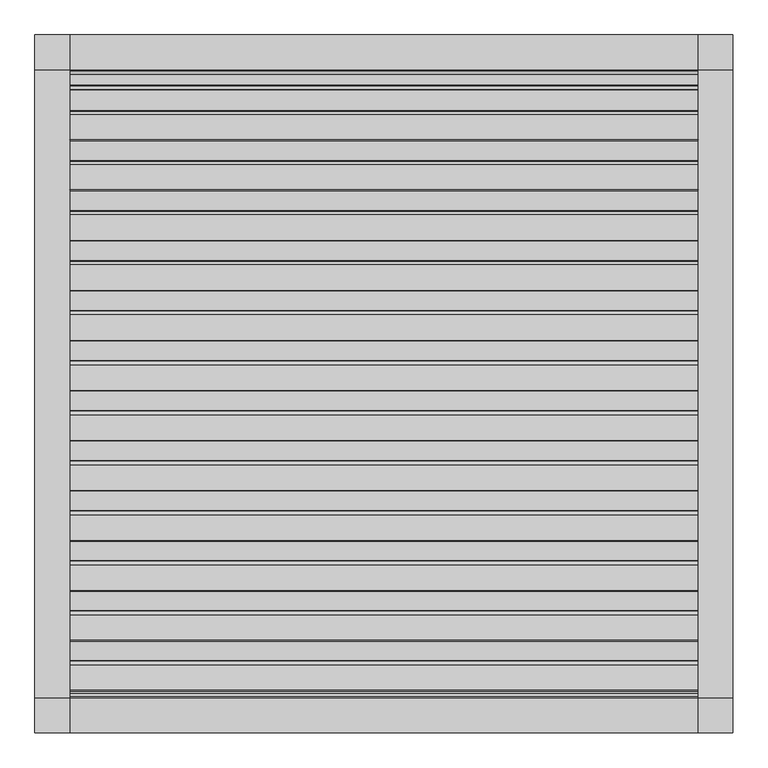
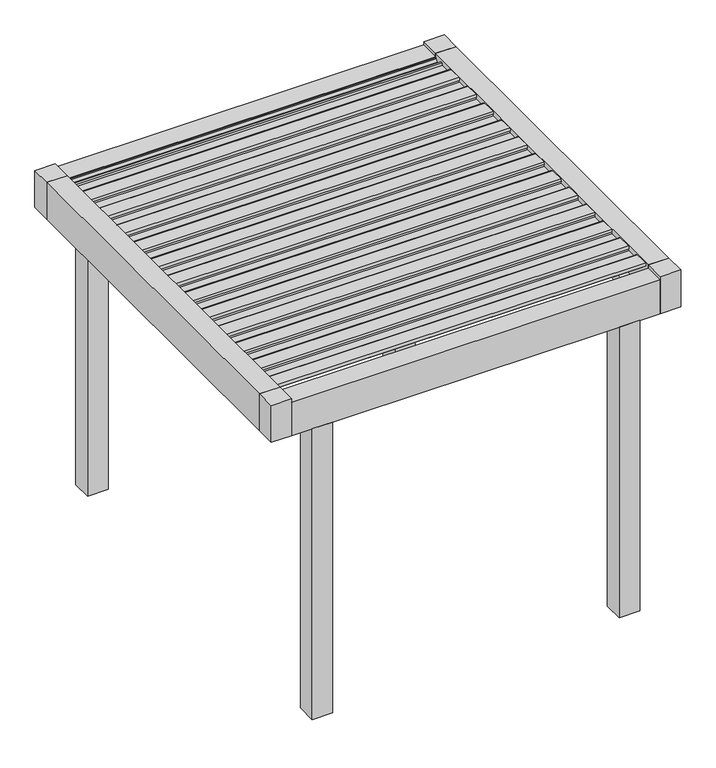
"""IFC4 building model written with IfcOpenShell, lengths in millimetres: proxy geometry, Renson_Amani_Patio_Cover : Renson_Amani_Patio_Cover."""

from ifc_helpers import new_model, si_unit, point, frame, frame_2d, origin, origin_with_axes, place, context, project, spatial, polyline, circle_curve, trimmed, segment, composite_curve, outline, extrude, source, transform, mapped, element, save


def generic_models_d4e516ff(model_context):
    return source(origin(), model_context, "Body", "SweptSolid", [
        extrude(outline(composite_curve([segment(polyline([(-1073.7289238, 2483.35), (-1076.1490335, 2511.01198), (-1104.984284, 2512.3970364), (-1101.5469529, 2531.8911096), (-991.549838, 2526.6075693)]), True, "CONTINUOUS"), segment(trimmed(circle_curve(frame_2d((-992.26951, 2511.6248435)), 15.0), [point((-991.549838, 2526.6075693))], [point((-977.4973937, 2514.2295662))], False, "CARTESIAN"), True, "CONTINUOUS"), segment(polyline([(-977.4973937, 2514.2295662), (-974.1067023, 2495.0), (-886.3709263, 2495.0), (-883.3594689, 2512.0788237), (-868.0824984, 2511.3450182), (-865.6332517, 2483.35), (-1073.7289238, 2483.35)]), True, "CONTINUOUS")], self_intersect=False)), frame((-1350.0, 0.0, 0.0), z_axis=(1.0, 0.0, 0.0), x_axis=(0.0, 1.0, 0.0)), (0.0, 0.0, 1.0), 2700.0),
        extrude(outline(composite_curve([segment(polyline([(-858.7132078, 2483.35), (-861.1333174, 2511.01198), (-889.9685679, 2512.3970364), (-886.5312368, 2531.8911096), (-776.534122, 2526.6075693)]), True, "CONTINUOUS"), segment(trimmed(circle_curve(frame_2d((-777.2537939, 2511.6248435)), 15.0), [point((-776.534122, 2526.6075693))], [point((-762.4816776, 2514.2295662))], False, "CARTESIAN"), True, "CONTINUOUS"), segment(polyline([(-762.4816776, 2514.2295662), (-759.0909863, 2495.0), (-671.3552102, 2495.0), (-668.3437528, 2512.0788237), (-653.0667824, 2511.3450182), (-650.6175356, 2483.35), (-858.7132078, 2483.35)]), True, "CONTINUOUS")], self_intersect=False)), frame((-1350.0, 0.0, 0.0), z_axis=(1.0, 0.0, 0.0), x_axis=(0.0, 1.0, 0.0)), (0.0, 0.0, 1.0), 2700.0),
        extrude(outline(composite_curve([segment(polyline([(-643.6974917, 2483.35), (-646.1176014, 2511.01198), (-674.9528519, 2512.3970364), (-671.5155208, 2531.8911096), (-561.5184059, 2526.6075693)]), True, "CONTINUOUS"), segment(trimmed(circle_curve(frame_2d((-562.2380779, 2511.6248435)), 15.0), [point((-561.5184059, 2526.6075693))], [point((-547.4659616, 2514.2295662))], False, "CARTESIAN"), True, "CONTINUOUS"), segment(polyline([(-547.4659616, 2514.2295662), (-544.0752702, 2495.0), (-456.3394942, 2495.0), (-453.3280368, 2512.0788237), (-438.0510663, 2511.3450182), (-435.6018196, 2483.35), (-643.6974917, 2483.35)]), True, "CONTINUOUS")], self_intersect=False)), frame((-1350.0, 0.0, 0.0), z_axis=(1.0, 0.0, 0.0), x_axis=(0.0, 1.0, 0.0)), (0.0, 0.0, 1.0), 2700.0),
        extrude(outline(composite_curve([segment(polyline([(-428.6817757, 2483.35), (-431.1018854, 2511.01198), (-459.9371358, 2512.3970364), (-456.4998047, 2531.8911096), (-346.5026899, 2526.6075693)]), True, "CONTINUOUS"), segment(trimmed(circle_curve(frame_2d((-347.2223618, 2511.6248435)), 15.0), [point((-346.5026899, 2526.6075693))], [point((-332.4502455, 2514.2295662))], False, "CARTESIAN"), True, "CONTINUOUS"), segment(polyline([(-332.4502455, 2514.2295662), (-329.0595542, 2495.0), (-241.3237782, 2495.0), (-238.3123207, 2512.0788237), (-223.0353503, 2511.3450182), (-220.5861035, 2483.35), (-428.6817757, 2483.35)]), True, "CONTINUOUS")], self_intersect=False)), frame((-1350.0, 0.0, 0.0), z_axis=(1.0, 0.0, 0.0), x_axis=(0.0, 1.0, 0.0)), (0.0, 0.0, 1.0), 2700.0),
        extrude(outline(composite_curve([segment(polyline([(-213.6660597, 2483.35), (-216.0861693, 2511.01198), (-244.9214198, 2512.3970364), (-241.4840887, 2531.8911096), (-131.4869738, 2526.6075693)]), True, "CONTINUOUS"), segment(trimmed(circle_curve(frame_2d((-132.2066458, 2511.6248435)), 15.0), [point((-131.4869738, 2526.6075693))], [point((-117.4345295, 2514.2295662))], False, "CARTESIAN"), True, "CONTINUOUS"), segment(polyline([(-117.4345295, 2514.2295662), (-114.0438381, 2495.0), (-26.3080621, 2495.0), (-23.2966047, 2512.0788237), (-8.0196342, 2511.3450182), (-5.5703875, 2483.35), (-213.6660597, 2483.35)]), True, "CONTINUOUS")], self_intersect=False)), frame((-1350.0, 0.0, 0.0), z_axis=(1.0, 0.0, 0.0), x_axis=(0.0, 1.0, 0.0)), (0.0, 0.0, 1.0), 2700.0),
        extrude(outline(composite_curve([segment(polyline([(1.3496564, 2483.35), (-1.0704533, 2511.01198), (-29.9057037, 2512.3970364), (-26.4683726, 2531.8911096), (83.5287422, 2526.6075693)]), True, "CONTINUOUS"), segment(trimmed(circle_curve(frame_2d((82.8090703, 2511.6248435)), 15.0), [point((83.5287422, 2526.6075693))], [point((97.5811866, 2514.2295662))], False, "CARTESIAN"), True, "CONTINUOUS"), segment(polyline([(97.5811866, 2514.2295662), (100.9718779, 2495.0), (188.7076539, 2495.0), (191.7191114, 2512.0788237), (206.9960818, 2511.3450182), (209.4453286, 2483.35), (1.3496564, 2483.35)]), True, "CONTINUOUS")], self_intersect=False)), frame((-1350.0, 0.0, 0.0), z_axis=(1.0, 0.0, 0.0), x_axis=(0.0, 1.0, 0.0)), (0.0, 0.0, 1.0), 2700.0),
        extrude(outline(composite_curve([segment(polyline([(216.3653724, 2483.35), (213.9452628, 2511.01198), (185.1100123, 2512.3970364), (188.5473434, 2531.8911096), (298.5444582, 2526.6075693)]), True, "CONTINUOUS"), segment(trimmed(circle_curve(frame_2d((297.8247863, 2511.6248435)), 15.0), [point((298.5444582, 2526.6075693))], [point((312.5969026, 2514.2295662))], False, "CARTESIAN"), True, "CONTINUOUS"), segment(polyline([(312.5969026, 2514.2295662), (315.987594, 2495.0), (403.72337, 2495.0), (406.7348274, 2512.0788237), (422.0117979, 2511.3450182), (424.4610446, 2483.35), (216.3653724, 2483.35)]), True, "CONTINUOUS")], self_intersect=False)), frame((-1350.0, 0.0, 0.0), z_axis=(1.0, 0.0, 0.0), x_axis=(0.0, 1.0, 0.0)), (0.0, 0.0, 1.0), 2700.0),
        extrude(outline(composite_curve([segment(polyline([(431.3810885, 2483.35), (428.9609788, 2511.01198), (400.1257284, 2512.3970364), (403.5630594, 2531.8911096), (513.5601743, 2526.6075693)]), True, "CONTINUOUS"), segment(trimmed(circle_curve(frame_2d((512.8405024, 2511.6248435)), 15.0), [point((513.5601743, 2526.6075693))], [point((527.6126187, 2514.2295662))], False, "CARTESIAN"), True, "CONTINUOUS"), segment(polyline([(527.6126187, 2514.2295662), (531.00331, 2495.0), (618.739086, 2495.0), (621.7505434, 2512.0788237), (637.0275139, 2511.3450182), (639.4767606, 2483.35), (431.3810885, 2483.35)]), True, "CONTINUOUS")], self_intersect=False)), frame((-1350.0, 0.0, 0.0), z_axis=(1.0, 0.0, 0.0), x_axis=(0.0, 1.0, 0.0)), (0.0, 0.0, 1.0), 2700.0),
        extrude(outline(composite_curve([segment(polyline([(646.3968045, 2483.35), (643.9766949, 2511.01198), (615.1414444, 2512.3970364), (618.5787755, 2531.8911096), (728.5758903, 2526.6075693)]), True, "CONTINUOUS"), segment(trimmed(circle_curve(frame_2d((727.8562184, 2511.6248435)), 15.0), [point((728.5758903, 2526.6075693))], [point((742.6283347, 2514.2295662))], False, "CARTESIAN"), True, "CONTINUOUS"), segment(polyline([(742.6283347, 2514.2295662), (746.019026, 2495.0), (833.7548021, 2495.0), (836.7662595, 2512.0788237), (852.04323, 2511.3450182), (854.4924767, 2483.35), (646.3968045, 2483.35)]), True, "CONTINUOUS")], self_intersect=False)), frame((-1350.0, 0.0, 0.0), z_axis=(1.0, 0.0, 0.0), x_axis=(0.0, 1.0, 0.0)), (0.0, 0.0, 1.0), 2700.0),
        extrude(outline(composite_curve([segment(polyline([(861.4125206, 2483.35), (858.9924109, 2511.01198), (830.1571605, 2512.3970364), (833.5944915, 2531.8911096), (943.5916064, 2526.6075693)]), True, "CONTINUOUS"), segment(trimmed(circle_curve(frame_2d((942.8719345, 2511.6248435)), 15.0), [point((943.5916064, 2526.6075693))], [point((957.6440508, 2514.2295662))], False, "CARTESIAN"), True, "CONTINUOUS"), segment(polyline([(957.6440508, 2514.2295662), (961.0347421, 2495.0), (1048.7705181, 2495.0), (1051.7819755, 2512.0788237), (1067.058946, 2511.3450182), (1069.5081927, 2483.35), (861.4125206, 2483.35)]), True, "CONTINUOUS")], self_intersect=False)), frame((-1350.0, 0.0, 0.0), z_axis=(1.0, 0.0, 0.0), x_axis=(0.0, 1.0, 0.0)), (0.0, 0.0, 1.0), 2700.0),
        extrude(outline(composite_curve([segment(polyline([(-1288.7446399, 2483.35), (-1291.1647495, 2511.01198), (-1320.0, 2512.3970364), (-1316.5626689, 2531.8911096), (-1206.5655541, 2526.6075693)]), True, "CONTINUOUS"), segment(trimmed(circle_curve(frame_2d((-1207.285226, 2511.6248435)), 15.0), [point((-1206.5655541, 2526.6075693))], [point((-1192.5131097, 2514.2295662))], False, "CARTESIAN"), True, "CONTINUOUS"), segment(polyline([(-1192.5131097, 2514.2295662), (-1189.1224184, 2495.0), (-1101.3866423, 2495.0), (-1098.3751849, 2512.0788237), (-1083.0982144, 2511.3450182), (-1080.6489677, 2483.35), (-1288.7446399, 2483.35)]), True, "CONTINUOUS")], self_intersect=False)), frame((-1350.0, 0.0, 0.0), z_axis=(1.0, 0.0, 0.0), x_axis=(0.0, 1.0, 0.0)), (0.0, 0.0, 1.0), 2700.0),
        extrude(outline(composite_curve([segment(polyline([(1076.4282366, 2483.35), (1074.008127, 2511.01198), (1045.1728765, 2512.3970364), (1048.6102076, 2531.8911096), (1158.6073224, 2526.6075693)]), True, "CONTINUOUS"), segment(trimmed(circle_curve(frame_2d((1157.8876505, 2511.6248435)), 15.0), [point((1158.6073224, 2526.6075693))], [point((1172.6597668, 2514.2295662))], False, "CARTESIAN"), True, "CONTINUOUS"), segment(polyline([(1172.6597668, 2514.2295662), (1176.0504581, 2495.0), (1263.7862342, 2495.0), (1266.7976916, 2512.0788237), (1282.0746621, 2511.3450182), (1284.5239088, 2483.35), (1076.4282366, 2483.35)]), True, "CONTINUOUS")], self_intersect=False)), frame((-1350.0, 0.0, 0.0), z_axis=(1.0, 0.0, 0.0), x_axis=(0.0, 1.0, 0.0)), (0.0, 0.0, 1.0), 2700.0),
        extrude(outline(polyline([(1200.0, -1350.0), (1200.0, -1500.0), (1050.0, -1500.0), (1050.0, -1350.0), (1200.0, -1350.0)])), origin_with_axes(), (0.0, 0.0, 1.0), 2250.0),
        extrude(outline(polyline([(1200.0, 1500.0), (1200.0, 1350.0), (1050.0, 1350.0), (1050.0, 1500.0), (1200.0, 1500.0)])), origin_with_axes(), (0.0, 0.0, 1.0), 2250.0),
        extrude(outline(polyline([(1500.0, 1500.0), (1500.0, 1350.0), (1350.0, 1350.0), (1350.0, 1500.0), (1500.0, 1500.0)])), frame((0.0, 0.0, 2250.0), z_axis=(0.0, 0.0, 1.0), x_axis=(1.0, 0.0, 0.0)), (0.0, 0.0, 1.0), 285.0),
        extrude(outline(polyline([(1500.0, -1350.0), (1500.0, -1500.0), (1350.0, -1500.0), (1350.0, -1350.0), (1500.0, -1350.0)])), frame((0.0, 0.0, 2250.0), z_axis=(0.0, 0.0, 1.0), x_axis=(1.0, 0.0, 0.0)), (0.0, 0.0, 1.0), 285.0),
        extrude(outline(polyline([(-1350.0, 1500.0), (-1350.0, 1350.0), (-1500.0, 1350.0), (-1500.0, 1500.0), (-1350.0, 1500.0)])), frame((0.0, 0.0, 2250.0), z_axis=(0.0, 0.0, 1.0), x_axis=(1.0, 0.0, 0.0)), (0.0, 0.0, 1.0), 285.0),
        extrude(outline(polyline([(-1350.0, -1500.0), (-1500.0, -1500.0), (-1500.0, -1350.0), (-1350.0, -1350.0), (-1350.0, -1500.0)])), frame((0.0, 0.0, 2250.0), z_axis=(0.0, 0.0, 1.0), x_axis=(1.0, 0.0, 0.0)), (0.0, 0.0, 1.0), 285.0),
        extrude(outline(polyline([(-1050.0, -1350.0), (-1050.0, -1500.0), (-1200.0, -1500.0), (-1200.0, -1350.0), (-1050.0, -1350.0)])), origin_with_axes(), (0.0, 0.0, 1.0), 2250.0),
        extrude(outline(polyline([(-1050.0, 1500.0), (-1050.0, 1350.0), (-1200.0, 1350.0), (-1200.0, 1500.0), (-1050.0, 1500.0)])), origin_with_axes(), (0.0, 0.0, 1.0), 2250.0),
        extrude(outline(polyline([(1350.0, 2466.6559373), (1290.0, 2466.6559373), (1286.2487113, 2480.6555802), (1329.5940945, 2480.6555802), (1345.0, 2496.400763), (1345.0, 2504.2449277), (1350.0, 2504.6823598), (1350.0, 2466.6559373)])), frame((-1350.0, 0.0, 0.0), z_axis=(1.0, 0.0, 0.0), x_axis=(0.0, 1.0, 0.0)), (0.0, 0.0, 1.0), 2700.0),
        extrude(outline(polyline([(-1350.0, 2510.0), (-1350.0, 2479.6823598), (-1345.0, 2479.2449277), (-1345.0, 2471.400763), (-1329.2544156, 2455.6555802), (-1319.9090324, 2455.6555802), (-1323.6603211, 2441.6559373), (-1350.0, 2441.6559373), (-1350.0, 2250.0), (-1500.0, 2250.0), (-1500.0, 2510.0), (-1350.0, 2510.0)])), frame((-1350.0, 0.0, 0.0), z_axis=(1.0, 0.0, 0.0), x_axis=(0.0, 1.0, 0.0)), (0.0, 0.0, 1.0), 2700.0),
        extrude(outline(polyline([(1350.0, 1500.0), (1350.0, 1350.0), (-1350.0, 1350.0), (-1350.0, 1500.0), (1350.0, 1500.0)])), frame((0.0, 0.0, 2250.0), z_axis=(0.0, 0.0, 1.0), x_axis=(1.0, 0.0, 0.0)), (0.0, 0.0, 1.0), 260.0),
        extrude(outline(polyline([(2535.0, -1350.0), (2535.0, -1500.0), (2250.0, -1500.0), (2250.0, -1280.0000001), (2322.0, -1280.0000001), (2322.0, -1350.0), (2535.0, -1350.0)])), frame((0.0, -1350.0, 0.0), z_axis=(0.0, 1.0, 0.0), x_axis=(0.0, 0.0, 1.0)), (0.0, 0.0, 1.0), 2700.0),
        extrude(outline(polyline([(2250.0, 1500.0), (2535.0, 1500.0), (2535.0, 1350.0), (2322.0, 1350.0), (2322.0, 1280.0000001), (2250.0, 1280.0000001), (2250.0, 1500.0)])), frame((0.0, -1350.0, 0.0), z_axis=(0.0, 1.0, 0.0), x_axis=(0.0, 0.0, 1.0)), (0.0, 0.0, 1.0), 2700.0),
    ])


if __name__ == "__main__":
    model = new_model("IFC4")
    model_context = context("Model", 3, world=origin())
    ifc_project = project(units=[si_unit("LENGTHUNIT", "METRE", prefix="MILLI")], contexts=[model_context])
    site = spatial("IfcSite", under=ifc_project)
    building = spatial("IfcBuilding", under=site)
    placement = place(None, origin())
    generic_models_shape = generic_models_d4e516ff(model_context)
    element("IfcBuildingElementProxy", 1, Name="Renson_Amani_Patio_Cover : Renson_Amani_Patio_Cover", ObjectType="Renson_Amani_Patio_Cover : Renson_Amani_Patio_Cover", at=placement, inside=building, context=model_context, shape_type="MappedRepresentation", body=[
        mapped(generic_models_shape, transform((0.0, 0.0, 0.0), x_axis=(1.0, 0.0, 0.0), y_axis=(0.0, 1.0, 0.0), z_axis=(0.0, 0.0, 1.0))),
    ])
    save(model, "model.ifc")
